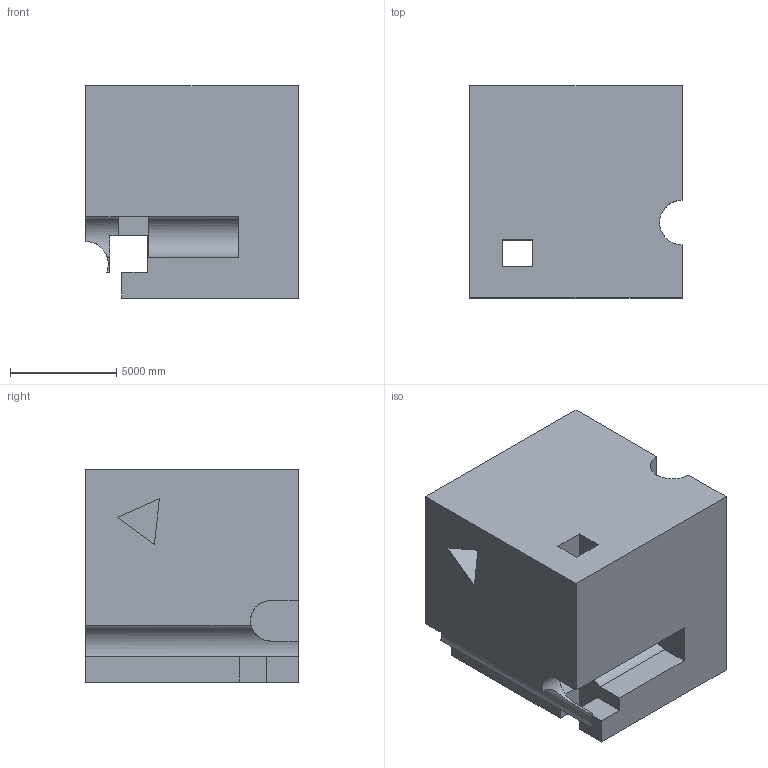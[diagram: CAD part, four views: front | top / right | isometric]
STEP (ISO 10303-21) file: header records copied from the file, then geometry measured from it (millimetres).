
FILE_DESCRIPTION (( 'STEP AP203' ), '1' );
FILE_NAME ('1824.STEP', '2022-08-26T13:27:41', ( 'user' ), ( '' ), 'SwSTEP 2.0', 'SolidWorks 2021', '' );
FILE_SCHEMA (( 'CONFIG_CONTROL_DESIGN' ));
Length unit declared in the file: centimetre
Products named in the file (1): 1824
Bounding box: 10000 x 10000 x 10000 mm (x, y, z)
Volume: 854641765198.3 mm3; surface area: 714986086.2 mm2
Topology: 1 solids, 1 shells, 40 faces, 114 edges, 76 vertices
Faces by surface type: plane 35, cylinder 5
Entity records: 1454 total; most frequent: CARTESIAN_POINT 314, ORIENTED_EDGE 228, DIRECTION 209, EDGE_CURVE 114, VECTOR 99, LINE 99, VERTEX_POINT 76, AXIS2_PLACEMENT_3D 55
